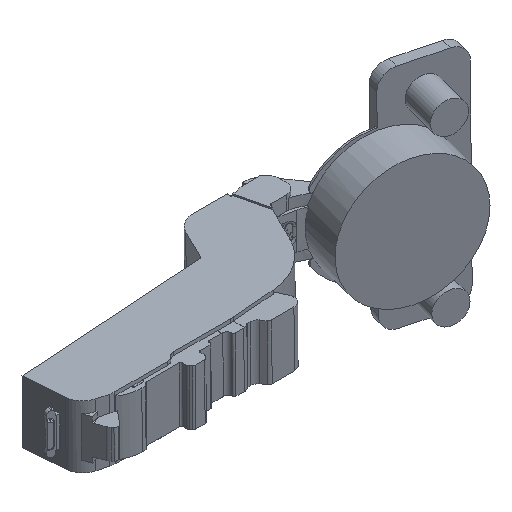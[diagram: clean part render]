
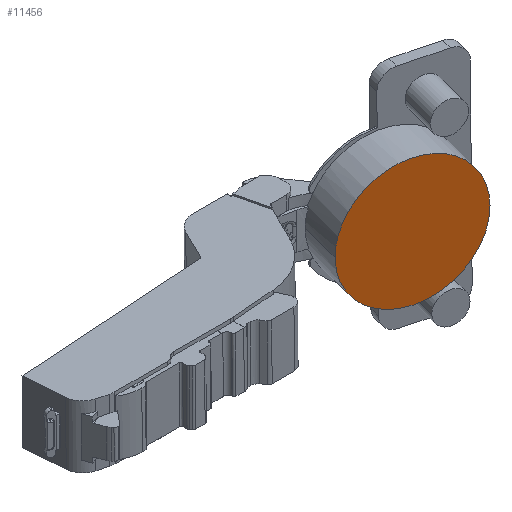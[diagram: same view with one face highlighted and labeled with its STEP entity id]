
A CAD part, isometric view. The second image highlights one B-rep face of the part: STEP entity #11456.
In plain terms, the highlighted planar face has unit normal (-0.254, -0.967, 0.009).
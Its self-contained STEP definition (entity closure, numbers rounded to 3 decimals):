
#7 = CARTESIAN_POINT ( 'NONE',  ( 37.888, 10.857, -11.37 ) ) ;
#148 = CARTESIAN_POINT ( 'NONE',  ( 38.414, 10.705, -12.885 ) ) ;
#449 = CARTESIAN_POINT ( 'NONE',  ( 23.5, 14.738, -0.662 ) ) ;
#495 = DIRECTION ( 'NONE',  ( -0.254, -0.967, 0.009 ) ) ;
#608 = AXIS2_PLACEMENT_3D ( 'NONE', #3670, #10068, #12806 ) ;
#637 = CARTESIAN_POINT ( 'NONE',  ( 22.323, 14.884, -18.037 ) ) ;
#663 = CARTESIAN_POINT ( 'NONE',  ( 24.814, 14.391, -0.806 ) ) ;
#680 = ORIENTED_EDGE ( 'NONE', *, *, #7371, .T. ) ;
#854 = CARTESIAN_POINT ( 'NONE',  ( 5.494, 19.305, -18.037 ) ) ;
#919 = CARTESIAN_POINT ( 'NONE',  ( 13.201, 17.417, -3.432 ) ) ;
#939 = CARTESIAN_POINT ( 'NONE',  ( 29.846, 13.054, -2.454 ) ) ;
#1046 = CARTESIAN_POINT ( 'NONE',  ( 12.882, 17.499, -3.651 ) ) ;
#1064 = CARTESIAN_POINT ( 'NONE',  ( 31.212, 12.688, -3.219 ) ) ;
#1194 = VERTEX_POINT ( 'NONE', #6420 ) ;
#1429 = CARTESIAN_POINT ( 'NONE',  ( 15.11, 16.926, -2.33 ) ) ;
#1568 = CARTESIAN_POINT ( 'NONE',  ( 16.965, 16.446, -1.54 ) ) ;
#1714 = CARTESIAN_POINT ( 'NONE',  ( 28.633, 13.378, -1.877 ) ) ;
#2093 = CARTESIAN_POINT ( 'NONE',  ( 13.851, 17.25, -3.018 ) ) ;
#2313 = CARTESIAN_POINT ( 'NONE',  ( 38.73, 10.611, -14.043 ) ) ;
#3067 = CARTESIAN_POINT ( 'NONE',  ( 6.583, 19.077, -11.868 ) ) ;
#3084 = CARTESIAN_POINT ( 'NONE',  ( 34.254, 11.865, -5.71 ) ) ;
#3134 = CARTESIAN_POINT ( 'NONE',  ( 8.331, 18.651, -8.372 ) ) ;
#3153 = CARTESIAN_POINT ( 'NONE',  ( 39.154, 10.47, -17.23 ) ) ;
#3321 = ORIENTED_EDGE ( 'NONE', *, *, #6066, .T. ) ;
#3349 = EDGE_CURVE ( 'NONE', #12847, #7644, #9304, .T. ) ;
#3524 = CARTESIAN_POINT ( 'NONE',  ( 16.029, 16.689, -1.912 ) ) ;
#3670 = CARTESIAN_POINT ( 'NONE',  ( 22.323, 14.884, -18.037 ) ) ;
#3729 = CARTESIAN_POINT ( 'NONE',  ( 27.38, 13.711, -1.413 ) ) ;
#4276 = CARTESIAN_POINT ( 'NONE',  ( 32.498, 12.341, -4.129 ) ) ;
#4349 = CARTESIAN_POINT ( 'NONE',  ( 38.89, 10.562, -14.835 ) ) ;
#4708 = CARTESIAN_POINT ( 'NONE',  ( 18.86, 15.954, -0.918 ) ) ;
#5114 = CARTESIAN_POINT ( 'NONE',  ( 14.518, 17.079, -2.64 ) ) ;
#5284 = DIRECTION ( 'NONE',  ( -0.009, 0.012, 1. ) ) ;
#5303 = CARTESIAN_POINT ( 'NONE',  ( 11.362, 17.887, -4.837 ) ) ;
#5349 = CARTESIAN_POINT ( 'NONE',  ( 34.219, 11.707, -23.571 ) ) ;
#5432 = EDGE_CURVE ( 'NONE', #7644, #1194, #6284, .T. ) ;
#5666 = EDGE_LOOP ( 'NONE', ( #5713, #13675, #680, #7246, #3321 ) ) ;
#5713 = ORIENTED_EDGE ( 'NONE', *, *, #3349, .T. ) ;
#5972 = CARTESIAN_POINT ( 'NONE',  ( 26.112, 14.048, -1.03 ) ) ;
#5981 = CARTESIAN_POINT ( 'NONE',  ( 5.494, 19.305, -18.037 ) ) ;
#6066 = EDGE_CURVE ( 'NONE', #13369, #12847, #6822, .T. ) ;
#6093 = B_SPLINE_CURVE_WITH_KNOTS ( 'NONE', 3,
 ( #12302, #9040, #1714, #3729, #5972, #663, #449, #9931, #9178, #4708, #1568, #3524, #8967, #1429, #13198, #6884 ),
 .UNSPECIFIED., .F., .F.,
 ( 4, 2, 1, 2, 2, 1, 2, 2, 4 ),
 ( 0.353, 0.39, 0.428, 0.465, 0.503, 0.578, 0.616, 0.635, 0.653 ),
 .UNSPECIFIED. ) ;
#6139 = CARTESIAN_POINT ( 'NONE',  ( 5.494, 19.305, -18.078 ) ) ;
#6284 = CIRCLE ( 'NONE', #11162, 17.4 ) ;
#6420 = CARTESIAN_POINT ( 'NONE',  ( 39.152, 10.463, -18.037 ) ) ;
#6822 = B_SPLINE_CURVE_WITH_KNOTS ( 'NONE', 3,
 ( #5114, #13780, #2093, #919, #1046, #11505, #5303, #7208, #12618, #11575, #3134, #13648, #11639, #3067, #8184, #7413, #10389, #9296, #12417, #854 ),
 .UNSPECIFIED., .F., .F.,
 ( 4, 2, 2, 2, 2, 2, 2, 2, 2, 4 ),
 ( 0.654, 0.676, 0.697, 0.741, 0.784, 0.827, 0.87, 0.914, 0.957, 1. ),
 .UNSPECIFIED. ) ;
#6884 = CARTESIAN_POINT ( 'NONE',  ( 14.518, 17.079, -2.64 ) ) ;
#7208 = CARTESIAN_POINT ( 'NONE',  ( 10.25, 18.169, -5.919 ) ) ;
#7246 = ORIENTED_EDGE ( 'NONE', *, *, #9360, .T. ) ;
#7254 = AXIS2_PLACEMENT_3D ( 'NONE', #5349, #12856, #5284 ) ;
#7371 = EDGE_CURVE ( 'NONE', #1194, #12229, #11594, .T. ) ;
#7413 = CARTESIAN_POINT ( 'NONE',  ( 5.916, 19.231, -14.126 ) ) ;
#7509 = CARTESIAN_POINT ( 'NONE',  ( 33.107, 12.177, -4.628 ) ) ;
#7644 = VERTEX_POINT ( 'NONE', #6139 ) ;
#8184 = CARTESIAN_POINT ( 'NONE',  ( 6.327, 19.137, -12.611 ) ) ;
#8607 = CARTESIAN_POINT ( 'NONE',  ( 36.444, 11.263, -8.529 ) ) ;
#8967 = CARTESIAN_POINT ( 'NONE',  ( 15.718, 16.769, -2.046 ) ) ;
#9040 = CARTESIAN_POINT ( 'NONE',  ( 29.253, 13.212, -2.149 ) ) ;
#9178 = CARTESIAN_POINT ( 'NONE',  ( 20.823, 15.441, -0.654 ) ) ;
#9296 = CARTESIAN_POINT ( 'NONE',  ( 5.549, 19.305, -16.462 ) ) ;
#9304 = CIRCLE ( 'NONE', #608, 17.4 ) ;
#9360 = EDGE_CURVE ( 'NONE', #12229, #13369, #6093, .T. ) ;
#9444 = CARTESIAN_POINT ( 'NONE',  ( 35.774, 11.448, -7.54 ) ) ;
#9579 = CARTESIAN_POINT ( 'NONE',  ( 38.033, 10.816, -11.745 ) ) ;
#9638 = CARTESIAN_POINT ( 'NONE',  ( 37.057, 11.093, -9.555 ) ) ;
#9819 = CARTESIAN_POINT ( 'NONE',  ( 29.846, 13.054, -2.454 ) ) ;
#9931 = CARTESIAN_POINT ( 'NONE',  ( 22.833, 14.913, -0.63 ) ) ;
#10068 = DIRECTION ( 'NONE',  ( -0.254, -0.967, 0.009 ) ) ;
#10197 = CARTESIAN_POINT ( 'NONE',  ( 14.518, 17.079, -2.64 ) ) ;
#10389 = CARTESIAN_POINT ( 'NONE',  ( 5.759, 19.265, -14.903 ) ) ;
#10476 = CARTESIAN_POINT ( 'NONE',  ( 36.228, 11.323, -8.192 ) ) ;
#10572 = PLANE ( 'NONE',  #7254 ) ;
#10609 = CARTESIAN_POINT ( 'NONE',  ( 38.295, 10.74, -12.502 ) ) ;
#10680 = CARTESIAN_POINT ( 'NONE',  ( 39.152, 10.463, -18.037 ) ) ;
#10776 = FACE_OUTER_BOUND ( 'NONE', #5666, .T. ) ;
#11162 = AXIS2_PLACEMENT_3D ( 'NONE', #637, #495, #11371 ) ;
#11371 = DIRECTION ( 'NONE',  ( -0.967, 0.254, -0.012 ) ) ;
#11456 = ADVANCED_FACE ( 'NONE', ( #10776 ), #10572, .F. ) ;
#11505 = CARTESIAN_POINT ( 'NONE',  ( 11.95, 17.737, -4.338 ) ) ;
#11575 = CARTESIAN_POINT ( 'NONE',  ( 8.772, 18.541, -7.723 ) ) ;
#11592 = CARTESIAN_POINT ( 'NONE',  ( 37.418, 10.991, -10.266 ) ) ;
#11594 = B_SPLINE_CURVE_WITH_KNOTS ( 'NONE', 3,
 ( #10680, #3153, #11659, #4349, #2313, #148, #10609, #9579, #7, #11592, #9638, #8607, #10476, #9444, #12899, #12830, #3084, #7509, #4276, #1064, #13671, #939 ),
 .UNSPECIFIED., .F., .F.,
 ( 4, 2, 2, 2, 2, 2, 2, 2, 2, 2, 4 ),
 ( 0., 0.044, 0.088, 0.11, 0.132, 0.177, 0.199, 0.221, 0.265, 0.309, 0.353 ),
 .UNSPECIFIED. ) ;
#11639 = CARTESIAN_POINT ( 'NONE',  ( 7.191, 18.931, -10.418 ) ) ;
#11659 = CARTESIAN_POINT ( 'NONE',  ( 39.102, 10.491, -16.428 ) ) ;
#12229 = VERTEX_POINT ( 'NONE', #9819 ) ;
#12302 = CARTESIAN_POINT ( 'NONE',  ( 29.846, 13.054, -2.454 ) ) ;
#12417 = CARTESIAN_POINT ( 'NONE',  ( 5.496, 19.312, -17.246 ) ) ;
#12618 = CARTESIAN_POINT ( 'NONE',  ( 9.73, 18.301, -6.499 ) ) ;
#12806 = DIRECTION ( 'NONE',  ( -0.967, 0.254, -0.012 ) ) ;
#12830 = CARTESIAN_POINT ( 'NONE',  ( 34.794, 11.718, -6.295 ) ) ;
#12847 = VERTEX_POINT ( 'NONE', #5981 ) ;
#12856 = DIRECTION ( 'NONE',  ( 0.254, 0.967, -0.009 ) ) ;
#12899 = CARTESIAN_POINT ( 'NONE',  ( 35.537, 11.514, -7.222 ) ) ;
#13198 = CARTESIAN_POINT ( 'NONE',  ( 14.811, 17.003, -2.48 ) ) ;
#13369 = VERTEX_POINT ( 'NONE', #10197 ) ;
#13648 = CARTESIAN_POINT ( 'NONE',  ( 7.541, 18.845, -9.719 ) ) ;
#13671 = CARTESIAN_POINT ( 'NONE',  ( 30.542, 12.868, -2.812 ) ) ;
#13675 = ORIENTED_EDGE ( 'NONE', *, *, #5432, .T. ) ;
#13780 = CARTESIAN_POINT ( 'NONE',  ( 14.182, 17.165, -2.823 ) ) ;
